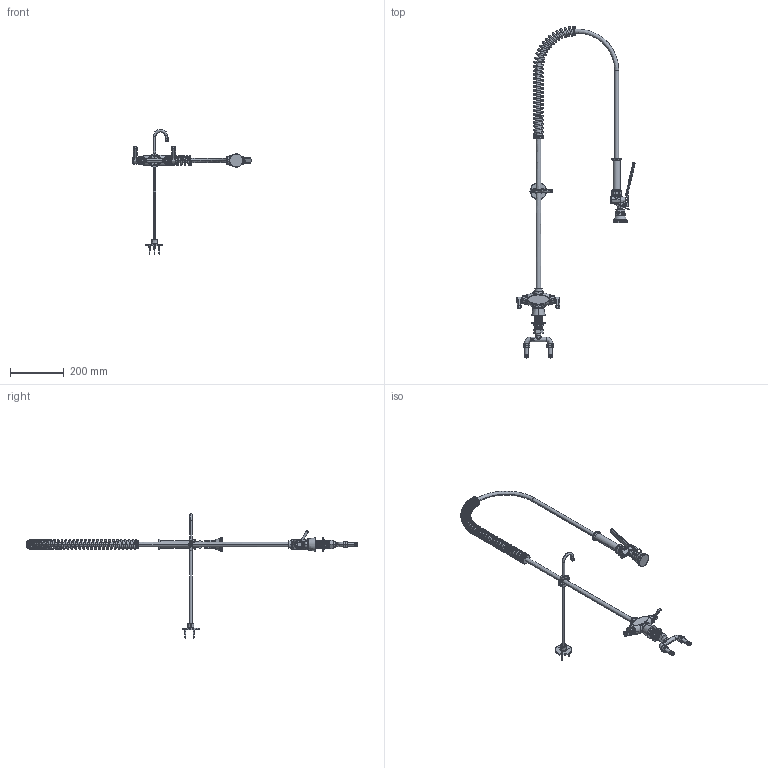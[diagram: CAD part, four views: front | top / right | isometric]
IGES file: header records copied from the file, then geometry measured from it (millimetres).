
Start section:  PTC IGES file: 919-xklab_REV051518.igs
Global section: file name: 919-xklab_REV051518.igs; native system: Creo Parametric by PTC Inc.; preprocessor: 2017260; author: dmisv; organization: Unknown; date: 20180515.134920; units: inch
Bounding box: 441.36 x 1240.45 x 467.9 mm (x, y, z)
Surface area: 292809.2 mm2 (no closed solid volume)
Topology: 0 solids, 0 shells, 1184 faces, 8683 edges, 11616 vertices
Faces by surface type: bspline 597, revolution 587
